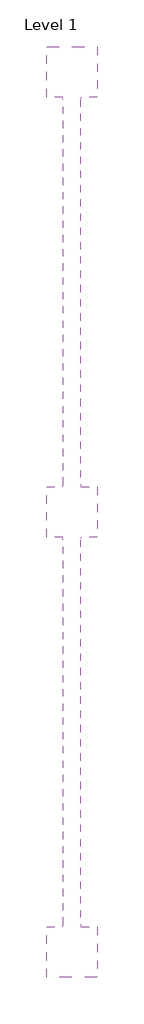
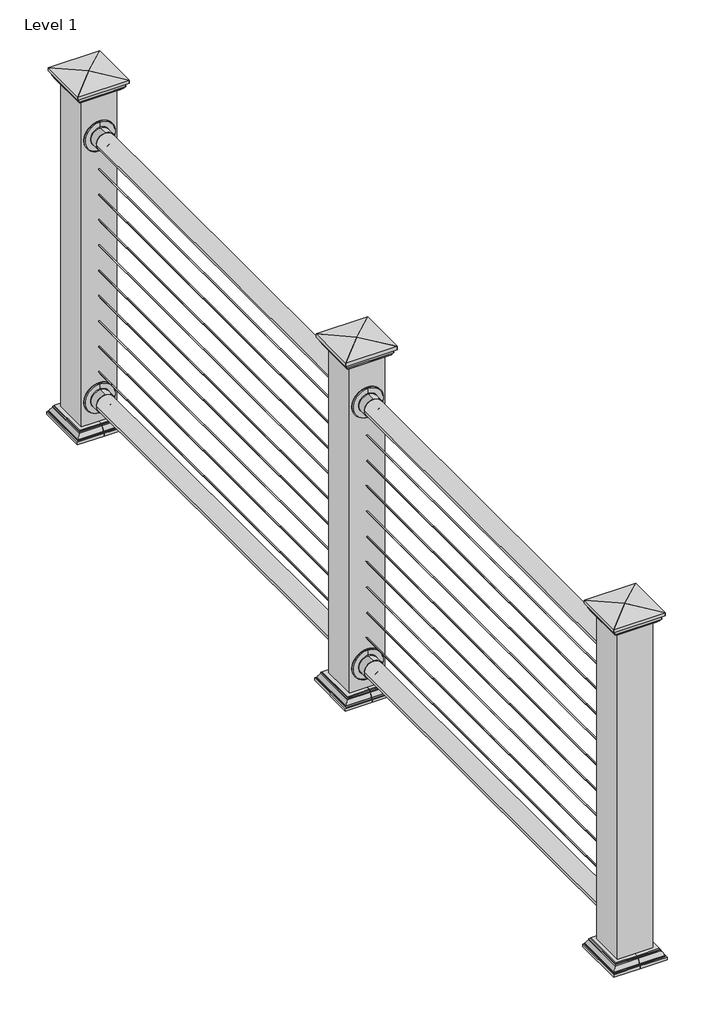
# One storey, incomplete: 1 railing.
"""IFC4 building model written with IfcOpenShell, lengths in millimetres."""

from ifc_helpers import new_model, si_unit, origin, place, context, project, spatial, transform, mapped, element, save
from components import railing_d079443f, railing_723e9c3e, railing_6dc1cf43

model = new_model("IFC4")

# Units and contexts
model_context = context("Model", 3, world=origin())
ifc_project = project(units=[si_unit("LENGTHUNIT", "METRE", prefix="MILLI")], contexts=[model_context])

# Site, building, storey
site = spatial("IfcSite", under=ifc_project)
building = spatial("IfcBuilding", under=site)
storey = spatial("IfcBuildingStorey", under=building, Name="Level 1", Elevation=0.0)

# Railing
placement = place(None, origin())
railing_shape = railing_d079443f(model_context)
railing_2_shape = railing_723e9c3e(model_context)
railing_3_shape = railing_6dc1cf43(model_context)
element("IfcRailing", 1, ObjectType="RailEasy™ Nautilus Flat", at=placement, inside=storey, context=model_context, shape_type="MappedRepresentation", body=[
    mapped(railing_shape, transform((0.0, 0.0, 0.0), x_axis=(1.0, 0.0, 0.0), y_axis=(0.0, 1.0, 0.0), z_axis=(0.0, 0.0, 1.0))),
    mapped(railing_2_shape, transform((0.0, 0.0, 0.0), x_axis=(1.0, 0.0, 0.0), y_axis=(0.0, 1.0, 0.0), z_axis=(0.0, 0.0, 1.0))),
    mapped(railing_3_shape, transform((0.0, 0.0, 0.0), x_axis=(1.0, 0.0, 0.0), y_axis=(0.0, 1.0, 0.0), z_axis=(0.0, 0.0, 1.0))),
])

save(model, "model.ifc")
